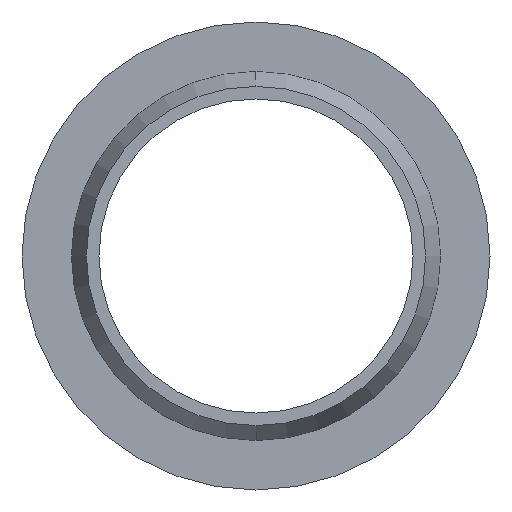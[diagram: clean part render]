
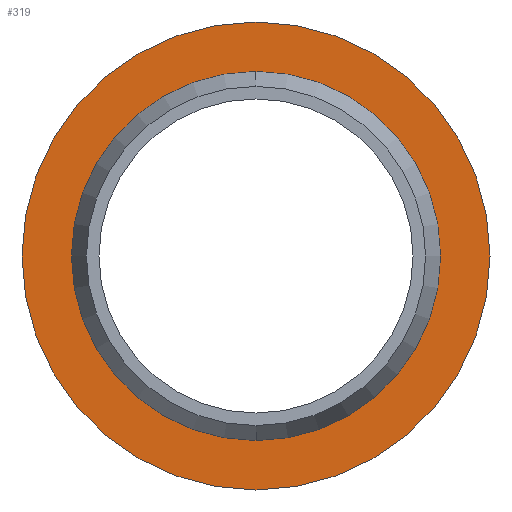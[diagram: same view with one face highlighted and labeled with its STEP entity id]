
A CAD part, left-side view. The second image highlights one B-rep face of the part: STEP entity #319.
In plain terms, the highlighted planar face has unit normal (-1, 0, 0).
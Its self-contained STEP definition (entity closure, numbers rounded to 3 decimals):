
#170 = DIRECTION ( 'NONE',  ( -1., 0., 0. ) ) ;
#171 = DIRECTION ( 'NONE',  ( 0., 0., -1. ) ) ;
#172 = AXIS2_PLACEMENT_3D ( 'NONE', #212, #199, #186 ) ;
#173 = DIRECTION ( 'NONE',  ( 1., 0., 0. ) ) ;
#174 = CARTESIAN_POINT ( 'NONE',  ( 2., 14.9, 0. ) ) ;
#175 = CARTESIAN_POINT ( 'NONE',  ( 2., 0., 0. ) ) ;
#186 = DIRECTION ( 'NONE',  ( 0., 0., 1. ) ) ;
#187 = CIRCLE ( 'NONE', #219, 14.9 ) ;
#190 = DIRECTION ( 'NONE',  ( -1., 0., 0. ) ) ;
#196 = CARTESIAN_POINT ( 'NONE',  ( 2., 0., 0. ) ) ;
#199 = DIRECTION ( 'NONE',  ( -1., 0., 0. ) ) ;
#201 = CIRCLE ( 'NONE', #172, 14.9 ) ;
#202 = FACE_OUTER_BOUND ( 'NONE', #306, .T. ) ;
#204 = PLANE ( 'NONE',  #230 ) ;
#212 = CARTESIAN_POINT ( 'NONE',  ( 2., 0., 0. ) ) ;
#217 = DIRECTION ( 'NONE',  ( 0., 0., 1. ) ) ;
#219 = AXIS2_PLACEMENT_3D ( 'NONE', #175, #190, #225 ) ;
#220 = FACE_BOUND ( 'NONE', #313, .T. ) ;
#222 = AXIS2_PLACEMENT_3D ( 'NONE', #196, #170, #217 ) ;
#225 = DIRECTION ( 'NONE',  ( 0., 0., 1. ) ) ;
#226 = CIRCLE ( 'NONE', #222, 11.75 ) ;
#230 = AXIS2_PLACEMENT_3D ( 'NONE', #174, #173, #171 ) ;
#232 = CARTESIAN_POINT ( 'NONE',  ( 2., 0., 14.9 ) ) ;
#245 = CARTESIAN_POINT ( 'NONE',  ( 2., 0., -14.9 ) ) ;
#297 = EDGE_CURVE ( 'NONE', #301, #298, #435, .T. ) ;
#298 = VERTEX_POINT ( 'NONE', #433 ) ;
#301 = VERTEX_POINT ( 'NONE', #425 ) ;
#306 = EDGE_LOOP ( 'NONE', ( #458, #457 ) ) ;
#307 = ORIENTED_EDGE ( 'NONE', *, *, #297, .F. ) ;
#313 = EDGE_LOOP ( 'NONE', ( #407, #307 ) ) ;
#317 = EDGE_CURVE ( 'NONE', #298, #301, #226, .T. ) ;
#319 = ADVANCED_FACE ( 'NONE', ( #220, #202 ), #204, .F. ) ;
#328 = EDGE_CURVE ( 'NONE', #329, #377, #201, .T. ) ;
#329 = VERTEX_POINT ( 'NONE', #232 ) ;
#332 = EDGE_CURVE ( 'NONE', #377, #329, #187, .T. ) ;
#377 = VERTEX_POINT ( 'NONE', #245 ) ;
#407 = ORIENTED_EDGE ( 'NONE', *, *, #317, .F. ) ;
#421 = DIRECTION ( 'NONE',  ( 0., 0., 1. ) ) ;
#422 = DIRECTION ( 'NONE',  ( -1., 0., 0. ) ) ;
#425 = CARTESIAN_POINT ( 'NONE',  ( 2., 0., 11.75 ) ) ;
#433 = CARTESIAN_POINT ( 'NONE',  ( 2., 0., -11.75 ) ) ;
#434 = AXIS2_PLACEMENT_3D ( 'NONE', #444, #422, #421 ) ;
#435 = CIRCLE ( 'NONE', #434, 11.75 ) ;
#444 = CARTESIAN_POINT ( 'NONE',  ( 2., 0., 0. ) ) ;
#457 = ORIENTED_EDGE ( 'NONE', *, *, #332, .T. ) ;
#458 = ORIENTED_EDGE ( 'NONE', *, *, #328, .T. ) ;
